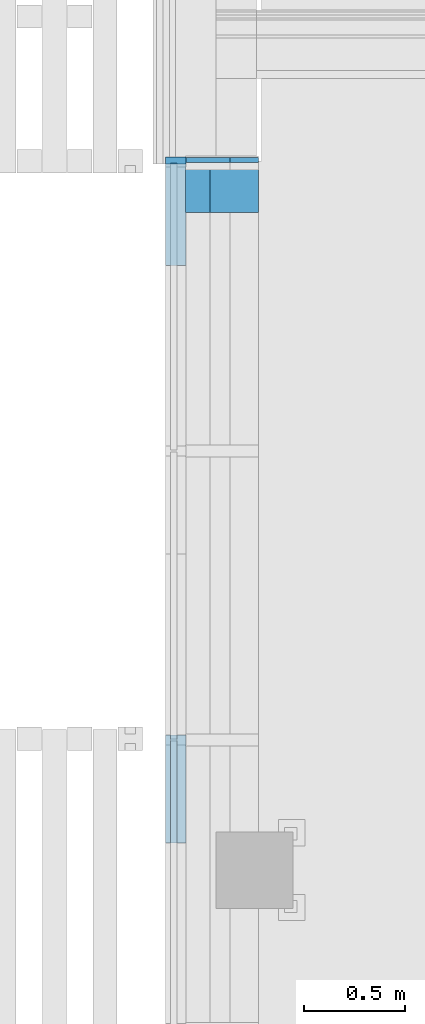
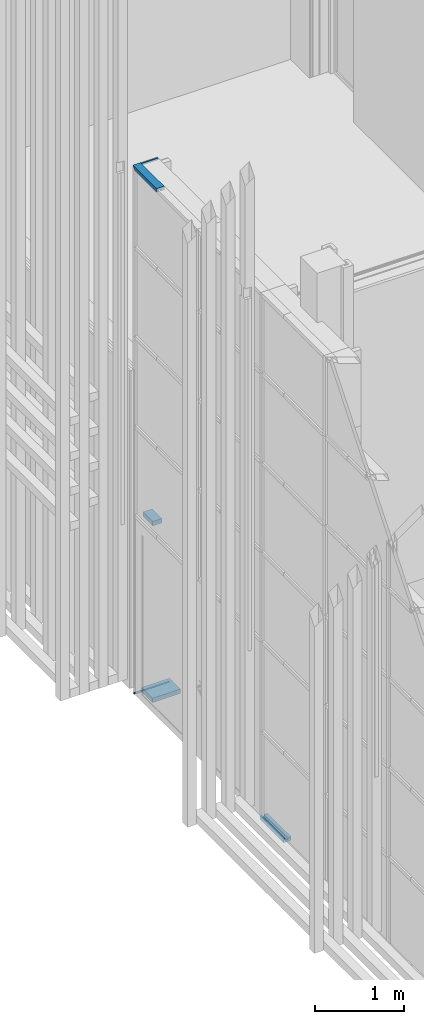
# One storey, part 94 of 260: 7 members, 2 elements without a shape of their own.
"""IFC2X3 building model written with IfcOpenShell, lengths in millimetres."""

from ifc_helpers import new_model, entity, si_unit, converted_unit, derived_unit, money_unit, direction, frame, origin_with_axes, place, context, subcontext, project, spatial, faceted_brep, material, type_object, element, aggregate, save


model = new_model("IFC2X3")

# Units and contexts
model_context = context("Model", 3, precision=0.01, world=origin_with_axes(), true_north=direction((0.0, 1.0)))
body_context = subcontext(model_context, "Body", "Model", "MODEL_VIEW")
ifc_project = project(units=[si_unit("LENGTHUNIT", "METRE", prefix="MILLI"), si_unit("AREAUNIT", "SQUARE_METRE"), si_unit("VOLUMEUNIT", "CUBIC_METRE"), converted_unit("PLANEANGLEUNIT", "DEGREE", entity("IfcPlaneAngleMeasure", 0.0174532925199), si_unit("PLANEANGLEUNIT", "RADIAN"), dimensions=[0, 0, 0, 0, 0, 0, 0]), money_unit("EUR"), converted_unit("TIMEUNIT", "Year", entity("IfcTimeMeasure", 31556926.0), si_unit("TIMEUNIT", "SECOND"), dimensions=[0, 0, 1, 0, 0, 0, 0]), si_unit("MASSUNIT", "GRAM", prefix="KILO"), si_unit("THERMODYNAMICTEMPERATUREUNIT", "DEGREE_CELSIUS"), si_unit("LUMINOUSINTENSITYUNIT", "LUMEN"), si_unit("ENERGYUNIT", "JOULE", prefix="MEGA"), derived_unit("THERMALCONDUCTANCEUNIT", [(si_unit("POWERUNIT", "WATT"), 1), (si_unit("LENGTHUNIT", "METRE"), -1), (si_unit("THERMODYNAMICTEMPERATUREUNIT", "KELVIN"), -1)]), derived_unit("SPECIFICHEATCAPACITYUNIT", [(si_unit("ENERGYUNIT", "JOULE"), 1), (si_unit("MASSUNIT", "GRAM", prefix="KILO"), -1), (si_unit("THERMODYNAMICTEMPERATUREUNIT", "KELVIN"), -1)]), derived_unit("MASSDENSITYUNIT", [(si_unit("MASSUNIT", "GRAM", prefix="KILO"), 1), (si_unit("VOLUMEUNIT", "CUBIC_METRE"), -1)])], contexts=[model_context])

# Site, building, storey
site_placement = place(None, origin_with_axes())
site = spatial("IfcSite", under=ifc_project, at=site_placement, Name="Kolde pst 67a", CompositionType="ELEMENT")
building_placement = place(site_placement, origin_with_axes())
building = spatial("IfcBuilding", under=site, at=building_placement, Name="Riigigümnaasium", CompositionType="ELEMENT")
storey_placement = place(building_placement, origin_with_axes())
storey = spatial("IfcBuildingStorey", under=building, at=storey_placement, Name="1. korrus", CompositionType="ELEMENT", Elevation=0.0)

# Curtain wall, members
curtain_wall_type = type_object("IfcCurtainWallType", Name="Curtain Wall Type", PredefinedType="NOTDEFINED")
curtain_wall_1_placement = place(storey_placement, frame((47829.9854655, 8727.77020058, -0.000749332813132), z_axis=(0.0, 0.0, 1.0), x_axis=(1.0, 0.0, 0.0)))
curtain_wall_1 = element("IfcCurtainWall", 1, at=curtain_wall_1_placement, inside=storey, type_object=curtain_wall_type, Name="KLAASFASSAAD")
ifc_material_1 = material(Name="_METALL - alumiinium")
member_type_1 = type_object("IfcMemberType", Name="Boundary Frame 50 x 100", PredefinedType="MEMBER")
member_1_placement = place(curtain_wall_1_placement, frame((-23999.9019816, 25847.2742142, 2.49889189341e-05), z_axis=(7.64768489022e-06, 0.999999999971, 0.0), x_axis=(0.0, 0.0, 1.0)))
member_1 = element("IfcMember", 2, at=member_1_placement, type_object=member_type_1, material=ifc_material_1, Name="RF RAAM SERV-643", ObjectType="MEMBER", context=body_context, shape_type="Brep", body=[
    faceted_brep([(30.0, 16.4999999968, 534.999990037), (50.0, 16.4999999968, 534.999990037), (50.0, 59.9999999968, 534.999990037), (0.0, 59.9999999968, 534.999990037), (0.0, -40.0000000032, 534.999990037), (50.0, -40.0000000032, 534.999990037), (50.0, -16.5000000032, 534.999990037), (30.0, -16.5000000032, 534.999990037), (30.0, 16.5, 0.0), (50.0, 16.5, 0.0), (50.0, 60.0, 3.5527136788e-10), (0.0, 60.0, 3.5527136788e-10), (0.0, -40.0, -2.41584530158e-10), (50.0, -40.0, -2.41584530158e-10), (50.0, -16.5, 0.0), (30.0, -16.5, 0.0)], [[[0, 1, 2, 3, 4, 5, 6, 7]], [[0, 8, 9, 1]], [[9, 10, 2, 1]], [[10, 11, 3, 2]], [[11, 12, 4, 3]], [[12, 13, 5, 4]], [[6, 5, 13, 14]], [[14, 15, 7, 6]], [[7, 15, 8, 0]], [[8, 15, 14, 13, 12, 11, 10, 9]]]),
])
member_2_placement = place(curtain_wall_1_placement, frame((-23999.8760143, 29242.7279165, 7259.99967352), z_axis=(-7.64768489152e-06, -0.999999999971, -7.34940623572e-08), x_axis=(0.0, 7.3494062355e-08, -1.0)))
member_2 = element("IfcMember", 3, at=member_2_placement, type_object=member_type_1, material=ifc_material_1, Name="RF RAAM SERV-652", ObjectType="MEMBER", context=body_context, shape_type="Brep", body=[
    faceted_brep([(29.9999606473, 16.5040949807, 535.453580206), (49.9999606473, 16.5040949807, 535.453581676), (49.9999606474, 60.0040949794, 535.453249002), (-3.93526349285e-05, 60.0040949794, 535.453245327), (-3.93526908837e-05, -39.9959050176, 535.454010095), (49.9999606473, -39.9959050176, 535.45401377), (49.9999606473, -16.4959050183, 535.45383405), (29.9999606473, -16.4959050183, 535.45383258), (29.9999977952, 16.5002294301, 29.999878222), (49.9999963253, 16.5003823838, 49.9998811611), (49.9999963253, 60.0003823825, 49.9995484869), (0.0, 59.9999999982, -0.000458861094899), (0.0, -39.9999999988, 0.000305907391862), (49.9999963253, -39.9996176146, 50.0003132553), (49.9999963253, -16.4996176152, 50.0001335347), (29.9999977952, -16.499770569, 30.0001305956)], [[[0, 1, 2, 3, 4, 5, 6, 7]], [[0, 8, 9, 1]], [[9, 10, 2, 1]], [[2, 10, 11, 3]], [[3, 11, 12, 4]], [[4, 12, 13, 5]], [[6, 5, 13, 14]], [[14, 15, 7, 6]], [[7, 15, 8, 0]], [[8, 15, 14, 13, 12, 11, 10, 9]]]),
])
member_3_placement = place(curtain_wall_1_placement, frame((-23999.8762667, 29209.7265545, 2.49889189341e-05), z_axis=(7.64768484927e-06, 0.999999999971, 0.0), x_axis=(0.0, 0.0, 1.0)))
member_3 = element("IfcMember", 4, at=member_3_placement, type_object=member_type_1, material=ifc_material_1, Name="RF RAAM SERV-645", ObjectType="MEMBER", context=body_context, shape_type="Brep", body=[
    faceted_brep([(30.0, 16.5, 3.00136196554), (33.0013619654, 16.5, 0.0), (33.0013619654, 60.0, 3.5527136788e-10), (0.0, 59.9999999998, 33.0013619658), (0.0, -40.0000000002, 33.0013619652), (33.0013619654, -40.0, -2.41584530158e-10), (33.0013619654, -16.5, 0.0), (30.0, -16.5, 3.00136196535), (30.0, 16.5, 0.0), (30.0, -16.5, 0.0), (0.0, -40.0, -2.41584530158e-10), (0.0, 60.0, 3.5527136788e-10)], [[[0, 1, 2, 3, 4, 5, 6, 7]], [[0, 8, 1]], [[8, 9, 6, 5, 10, 11, 2, 1]], [[11, 3, 2]], [[11, 10, 4, 3]], [[5, 4, 10]], [[9, 7, 6]], [[7, 9, 8, 0]]]),
])
aggregate(curtain_wall_1, [member_1, member_2, member_3])

curtain_wall_2_placement = place(storey_placement, frame((23890.0026791, 27220.1832522, -0.000253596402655), z_axis=(0.0, 0.0, 1.0), x_axis=(1.0, 0.0, 0.0)))
curtain_wall_2 = element("IfcCurtainWall", 5, at=curtain_wall_2_placement, inside=storey, type_object=curtain_wall_type, Name="Klaasfassaadi puitkarkass")
ifc_material_2 = material(Name="_KANDETARIND - liimpuit vastavalt EK osale")
member_type_2 = type_object("IfcMemberType", Name="Transom Frame 60 x 120", PredefinedType="MEMBER")
member_4_placement = place(curtain_wall_2_placement, frame((5.36951283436e-05, 10475.2264596, 2460.0002536), z_axis=(5.12590843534e-09, 1.0, 0.0), x_axis=(0.0, 0.0, 1.0)))
member_4 = element("IfcMember", 6, at=member_4_placement, type_object=member_type_2, material=ifc_material_2, Name="RF RAAM HOR-836", ObjectType="MEMBER", context=body_context, shape_type="Brep", body=[
    faceted_brep([(30.0, 120.0, 6.1510974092e-07), (30.0, 119.999998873, 219.773540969), (30.0, -1.12654063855e-06, 219.773540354), (30.0, 0.0, 0.0), (-30.0, 120.0, 6.1510974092e-07), (-30.0, 119.999998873, 219.773540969), (-30.0, -1.12654063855e-06, 219.773540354), (-30.0, 0.0, 0.0)], [[[0, 1, 2, 3]], [[4, 5, 1, 0]], [[1, 5, 6, 2]], [[3, 2, 6, 7]], [[0, 3, 7, 4]], [[7, 6, 5, 4]]]),
])
member_type_3 = type_object("IfcMemberType", Name="Boundary Frame 60 x 360", PredefinedType="MEMBER")
member_5_placement = place(curtain_wall_2_placement, frame((5.36951283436e-05, 10475.2264596, 0.0), z_axis=(5.12590843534e-09, 1.0, 0.0), x_axis=(0.0, 0.0, 1.0)))
member_5 = element("IfcMember", 7, at=member_5_placement, type_object=member_type_3, material=ifc_material_2, Name="RF RAAM SERV-718", ObjectType="MEMBER", context=body_context, shape_type="Brep", body=[
    faceted_brep([(60.0, 360.0, 1.84532211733e-06), (60.0, 359.99999872, 249.773542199), (60.0, -1.28031629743e-06, 249.773540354), (60.0, 0.0, 0.0), (0.0, 360.0, 1.84532211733e-06), (0.0, 359.99999872, 249.773542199), (0.0, -1.28031629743e-06, 249.773540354), (0.0, 0.0, 0.0)], [[[0, 1, 2, 3]], [[4, 5, 1, 0]], [[1, 5, 6, 2]], [[3, 2, 6, 7]], [[0, 3, 7, 4]], [[7, 6, 5, 4]]]),
])
member_6_placement = place(curtain_wall_2_placement, frame((5.50898207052e-05, 10747.3132407, 7259.99980874), z_axis=(-5.12592793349e-09, -0.999999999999, 1.72910582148e-06), x_axis=(0.0, -1.72910582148e-06, -0.999999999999)))
member_6 = element("IfcMember", 8, at=member_6_placement, type_object=member_type_3, material=ifc_material_2, Name="RF RAAM SERV-726", ObjectType="MEMBER", context=body_context, shape_type="Brep", body=[
    faceted_brep([(3.85820362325e-05, 220.000003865, 22.3132882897), (0.0, 220.000003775, -1.12770237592e-06), (0.0, 0.0, 0.0), (3.85820380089e-05, 1.14376064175e-07, 22.3132894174), (22.3133665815, 220.000003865, 22.3132497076), (22.3133665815, 1.14376064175e-07, 22.3132508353)], [[[0, 1, 2, 3]], [[4, 1, 0]], [[1, 4, 5, 2]], [[3, 2, 5]], [[4, 0, 3, 5]]]),
])
member_7_placement = place(curtain_wall_2_placement, frame((5.49754446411e-05, 10724.9999999, 0.0), z_axis=(5.1259279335e-09, 1.0, 0.0), x_axis=(0.0, 0.0, 1.0)))
member_7 = element("IfcMember", 9, at=member_7_placement, type_object=member_type_3, material=ifc_material_2, Name="RF RAAM SERV-719", ObjectType="MEMBER", context=body_context, shape_type="Brep", body=[
    faceted_brep([(22.313240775, 0.0, 0.0), (0.0, -1.14376064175e-07, 22.313240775), (0.0, 0.0, 0.0), (22.313240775, 360.0, 1.84533632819e-06), (0.0, 359.999999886, 22.3132426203), (0.0, 360.0, 1.84532922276e-06)], [[[0, 1, 2]], [[0, 3, 4, 1]], [[2, 1, 4, 5]], [[3, 0, 2, 5]], [[5, 4, 3]]]),
])
aggregate(curtain_wall_2, [member_5, member_4, member_6, member_7])

save(model, "model.ifc")
